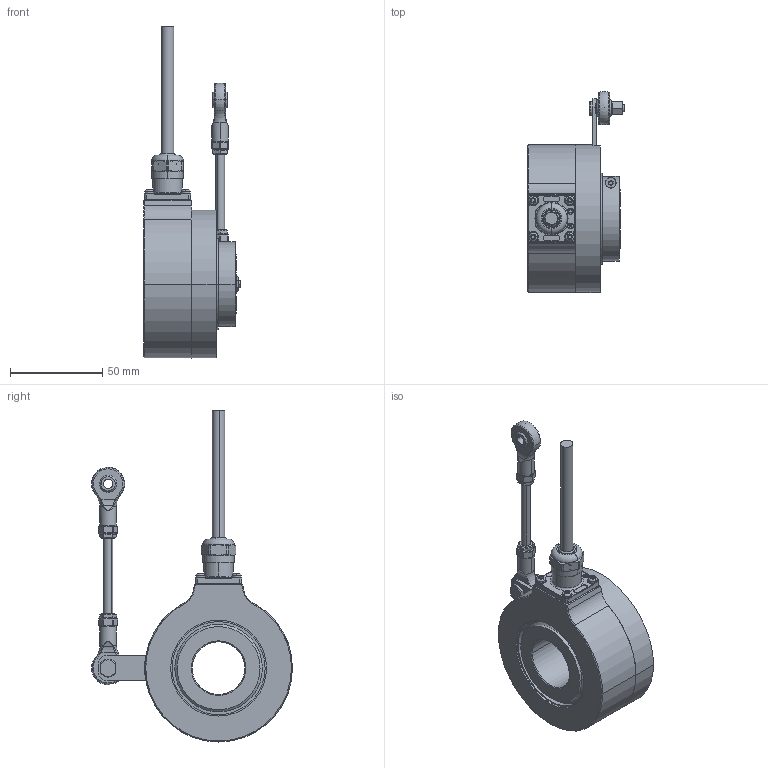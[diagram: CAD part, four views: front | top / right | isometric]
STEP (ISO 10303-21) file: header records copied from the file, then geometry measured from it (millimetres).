
FILE_DESCRIPTION (( 'STEP AP203' ), '1' );
FILE_NAME ('K80I.OXX.XXXXX.XH1688A.6XR11.XXXX.step', '2025-12-09T08:31:50', ( '' ), ( '' ), 'SwSTEP 2.0', 'SolidWorks 2021', '' );
FILE_SCHEMA (( 'CONFIG_CONTROL_DESIGN' ));
Length unit declared in the file: millimetre
Products named in the file (1): K80I.OXX.XXXXX.XH1688A.6XR11.XXXX
Bounding box: 52.6 x 108.97 x 180.07 mm (x, y, z)
Volume: 206136.6 mm3; surface area: 66130.2 mm2
Topology: 17 solids, 17 shells, 918 faces, 2311 edges, 1427 vertices
Faces by surface type: plane 306, cylinder 305, cone 120, bspline 92, torus 65, sphere 30
Entity records: 30607 total; most frequent: CARTESIAN_POINT 9019, ORIENTED_EDGE 4546, DIRECTION 4532, EDGE_CURVE 2273, AXIS2_PLACEMENT_3D 1780, VERTEX_POINT 1423, EDGE_LOOP 984, LINE 972
